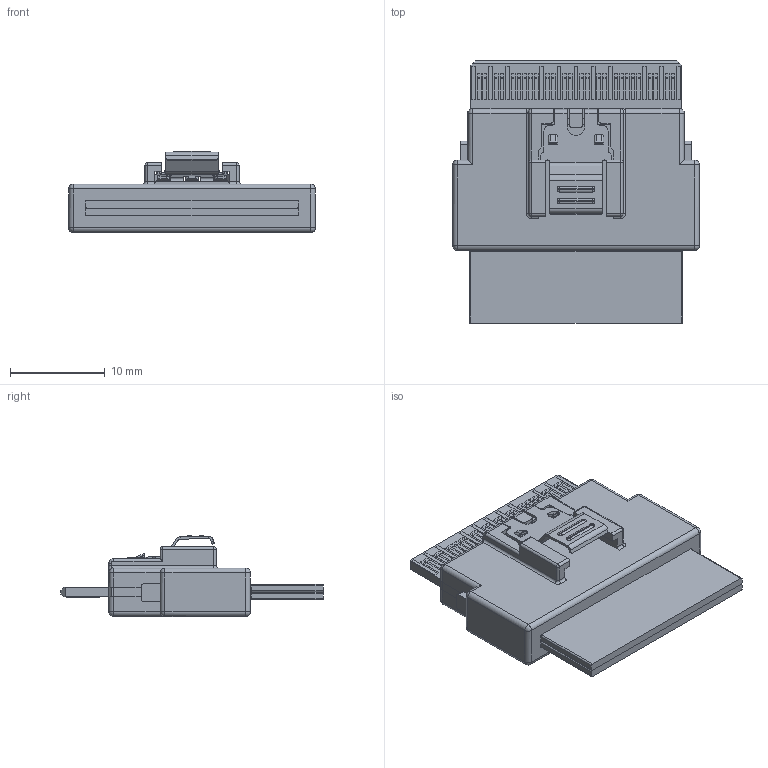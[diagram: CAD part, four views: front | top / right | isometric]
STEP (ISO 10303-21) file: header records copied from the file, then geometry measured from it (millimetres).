
FILE_DESCRIPTION((''),'2;1');
FILE_NAME('ASM0001_ASM','2015-02-05T',('bobtang'),(''),'PRO/ENGINEER BY PARAMETRIC TECHNOLOGY CORPORATION, 2012130','PRO/ENGINEER BY PARAMETRIC TECHNOLOGY CORPORATION, 2012130','');
FILE_SCHEMA(('CONFIG_CONTROL_DESIGN'));
Length unit declared in the file: millimetre
Products named in the file (5): PRT0001; PRT0002; PRT0003; PRT0004; ASM0001_ASM
Assembly tree (5 placements, depth 2):
  ASM0001_ASM
    PRT0001
    PRT0002
    PRT0003
    PRT0004  x2
Bounding box: 25.95 x 27.6 x 8.54 mm (x, y, z)
Volume: 2388.9 mm3; surface area: 2937.5 mm2
Topology: 5 solids, 6 shells, 1190 faces, 3019 edges, 1971 vertices
Faces by surface type: plane 950, cylinder 128, extrusion 73, sphere 16, bspline 12, torus 11
Entity records: 35828 total; most frequent: CARTESIAN_POINT 7399, ORIENTED_EDGE 5958, DIRECTION 5375, EDGE_CURVE 2979, VECTOR 2583, LINE 2510, VERTEX_POINT 1955, AXIS2_PLACEMENT_3D 1396
